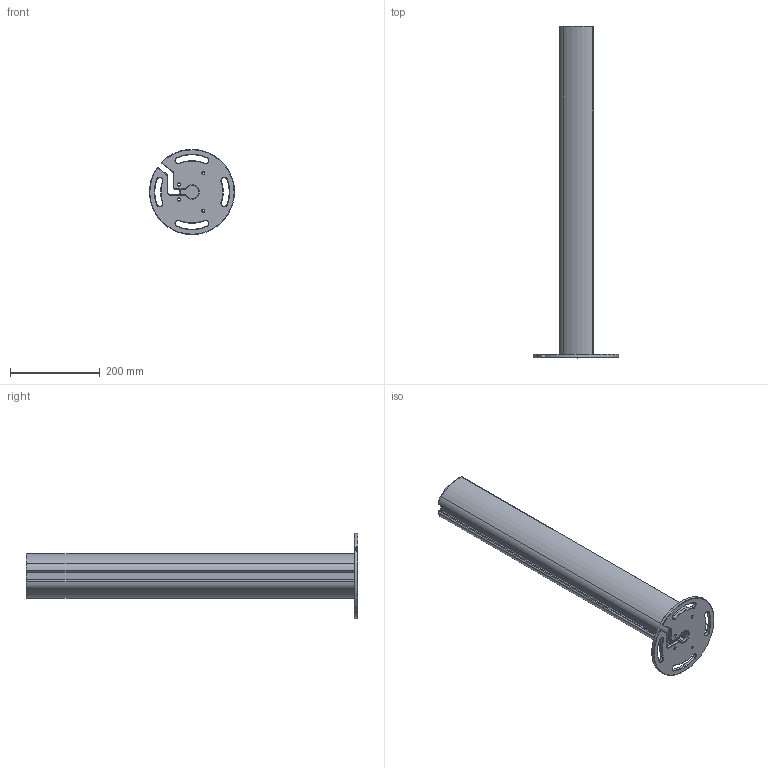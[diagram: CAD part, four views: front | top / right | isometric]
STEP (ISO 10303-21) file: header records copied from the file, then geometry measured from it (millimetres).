
FILE_DESCRIPTION((''),'2;1');
FILE_NAME('ESQC_ASM','2022-07-19T11:52:38',('18822879468'),(''),'CREO PARAMETRIC BY PTC INC, 2019010','CREO PARAMETRIC BY PTC INC, 2019010','');
FILE_SCHEMA(('CONFIG_CONTROL_DESIGN'));
Length unit declared in the file: millimetre
Products named in the file (5): 00; _-0001; _-0002; 000; ESQC_ASM
Assembly tree (4 placements, depth 2):
  ESQC_ASM
    00
    _-0001
    _-0002
    000
Bounding box: 189.81 x 740 x 189.85 mm (x, y, z)
Volume: 1171208.8 mm3; surface area: 604925.2 mm2
Topology: 4 solids, 4 shells, 239 faces, 613 edges, 378 vertices
Faces by surface type: cylinder 98, plane 73, cone 68
Entity records: 7388 total; most frequent: DIRECTION 1365, CARTESIAN_POINT 1235, ORIENTED_EDGE 1218, EDGE_CURVE 609, AXIS2_PLACEMENT_3D 508, VERTEX_POINT 378, VECTOR 349, LINE 349
